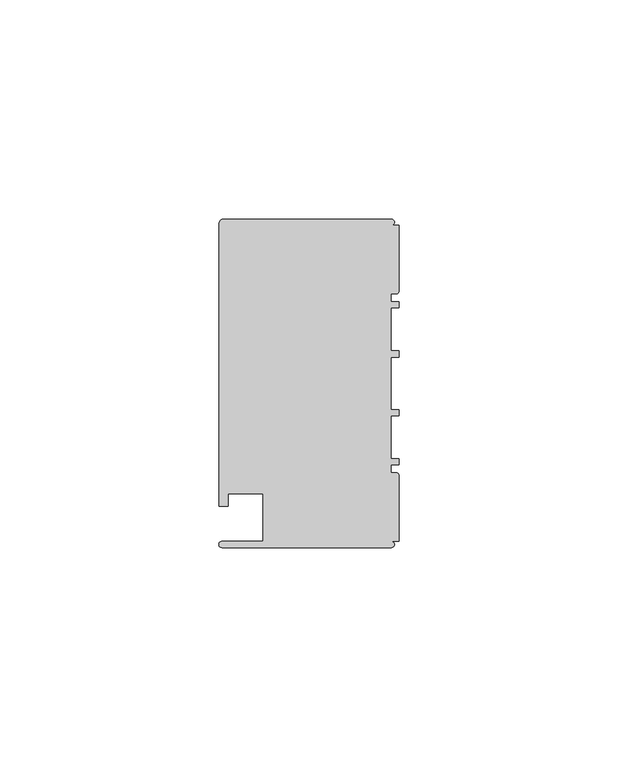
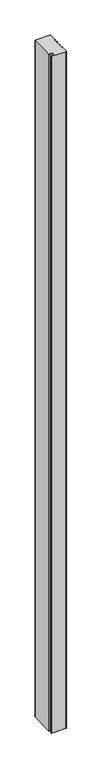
"""IFC4 building model written with IfcOpenShell, lengths in millimetres: member geometry, Прямоугольный импост : 1-AMG-1-Профиль 40Х75 Верх П."""

from ifc_helpers import new_model, si_unit, point, frame, frame_2d, origin, place, context, project, spatial, polyline, circle_curve, trimmed, segment, composite_curve, outline, extrude, source, transform, mapped, element, save


def member_214070ad(model_context):
    return source(origin(), model_context, "Body", "SweptSolid", [
        extrude(outline(composite_curve([segment(polyline([(-1.7, -37.5), (-40.4, -37.5)]), True, "CONTINUOUS"), segment(trimmed(circle_curve(frame_2d((-40.4, -36.8)), 0.7), [point((-40.4, -37.5))], [point((-40.4, -36.1))], False, "CARTESIAN"), True, "CONTINUOUS"), segment(polyline([(-40.4, -36.1), (-31.0, -36.1), (-31.0, -25.25), (-39.0, -25.25), (-39.0, -28.1), (-41.1, -28.1), (-41.1, 36.1)]), True, "CONTINUOUS"), segment(trimmed(circle_curve(frame_2d((-39.7541527, 36.3020763)), 1.3609334), [point((-41.1, 36.1))], [point((-40.4, 37.5))], False, "CARTESIAN"), True, "CONTINUOUS"), segment(polyline([(-40.4, 37.5), (-1.7, 37.5)]), True, "CONTINUOUS"), segment(trimmed(circle_curve(frame_2d((-1.7, 36.8)), 0.7), [point((-1.7, 37.5))], [point((-1.7, 36.1))], False, "CARTESIAN"), True, "CONTINUOUS"), segment(polyline([(-1.7, 36.1), (0.0, 36.1), (0.0, 20.95)]), True, "CONTINUOUS"), segment(trimmed(circle_curve(frame_2d((-0.5, 20.95)), 0.5), [point((0.0, 20.95))], [point((-0.5, 20.45))], False, "CARTESIAN"), True, "CONTINUOUS"), segment(polyline([(-0.5, 20.45), (-1.8, 20.45), (-1.8, 18.65), (0.0, 18.65), (0.0, 17.25), (-1.8, 17.25), (-1.8, 7.4), (0.0, 7.4), (0.0, 6.0), (-1.8, 6.0), (-1.8, -6.0), (0.0, -6.0), (0.0, -7.4), (-1.8, -7.4), (-1.8, -17.25), (0.0, -17.25), (0.0, -18.65), (-1.8, -18.65), (-1.8, -20.45), (-0.5, -20.45)]), True, "CONTINUOUS"), segment(trimmed(circle_curve(frame_2d((-0.5, -20.95)), 0.5), [point((-0.5, -20.45))], [point((0.0, -20.95))], False, "CARTESIAN"), True, "CONTINUOUS"), segment(polyline([(0.0, -20.95), (0.0, -36.1), (-1.7, -36.1)]), True, "CONTINUOUS"), segment(trimmed(circle_curve(frame_2d((-1.7, -36.8)), 0.7), [point((-1.7, -36.1))], [point((-1.7, -37.5))], False, "CARTESIAN"), True, "CONTINUOUS")], self_intersect=False)), frame((0.0, 0.0, -1875.0), z_axis=(0.0, 0.0, 1.0), x_axis=(1.0, 0.0, 0.0)), (0.0, 0.0, 1.0), 1875.0),
    ])


if __name__ == "__main__":
    model = new_model("IFC4")
    model_context = context("Model", 3, world=origin())
    ifc_project = project(units=[si_unit("LENGTHUNIT", "METRE", prefix="MILLI")], contexts=[model_context])
    site = spatial("IfcSite", under=ifc_project)
    building = spatial("IfcBuilding", under=site)
    placement = place(None, origin())
    member_shape = member_214070ad(model_context)
    element("IfcMember", 1, ObjectType="Прямоугольный импост : 1-AMG-1-Профиль 40Х75 Верх П", at=placement, inside=building, context=model_context, shape_type="MappedRepresentation", body=[
        mapped(member_shape, transform((0.0, 0.0, 0.0), x_axis=(1.0, 0.0, 0.0), y_axis=(0.0, 1.0, 0.0), z_axis=(0.0, 0.0, 1.0))),
    ])
    save(model, "model.ifc")
